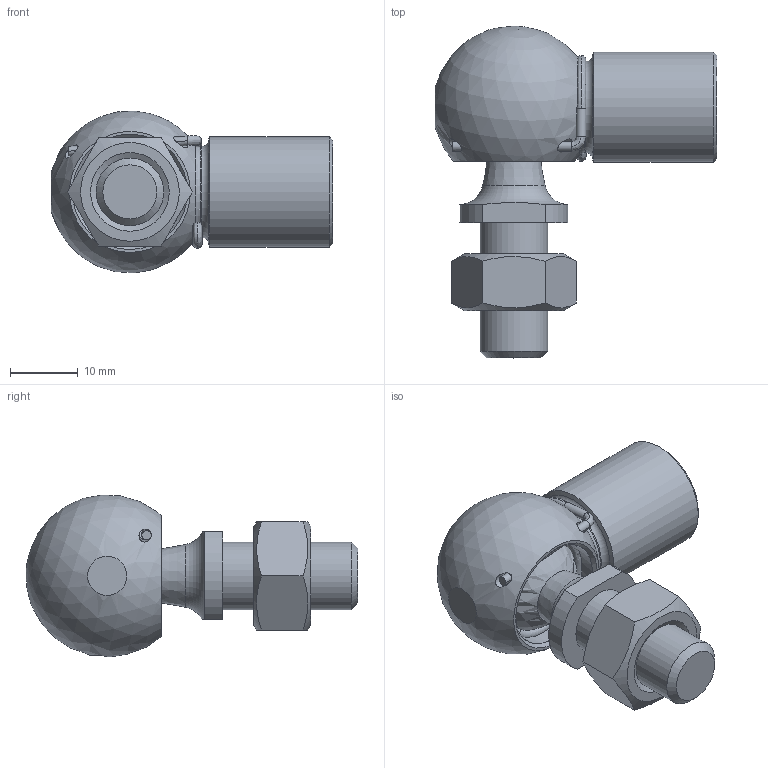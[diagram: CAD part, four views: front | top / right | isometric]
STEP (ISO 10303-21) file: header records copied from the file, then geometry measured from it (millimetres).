
FILE_DESCRIPTION(/* description */ ('Unknown'),/* implementation_level */ '2;1');
FILE_NAME(/* name */ '13.M10L30CS16M10',/* time_stamp */ '2022-11-16T18:27:52+01:00',/* author */ ('Unknown'),/* organization */ ('Unknown'),/* preprocessor_version */ 'ST-DEVELOPER v16.7',/* originating_system */ 'Solid Edge',/* authorisation */ 'Unknown');
FILE_SCHEMA (('AUTOMOTIVE_DESIGN {1 0 10303 214 3 1 1}'));
Length unit declared in the file: millimetre
Products named in the file (1): 13.M10L30CS16M10
Bounding box: 41.64 x 49.07 x 23.93 mm (x, y, z)
Volume: 12415.6 mm3; surface area: 6641.1 mm2
Topology: 1 solids, 1 shells, 71 faces, 211 edges, 141 vertices
Faces by surface type: plane 25, cylinder 19, cone 11, bspline 7, torus 6, sphere 3
Full cylindrical faces by diameter (mm): 8.5 x1, 10 x2, 13.5 x1, 16.04 x2, 16.3 x1
Entity records: 2961 total; most frequent: CARTESIAN_POINT 1326, ORIENTED_EDGE 344, DIRECTION 278, EDGE_CURVE 172, AXIS2_PLACEMENT_3D 128, VERTEX_POINT 127, FACE_BOUND 109, EDGE_LOOP 108
